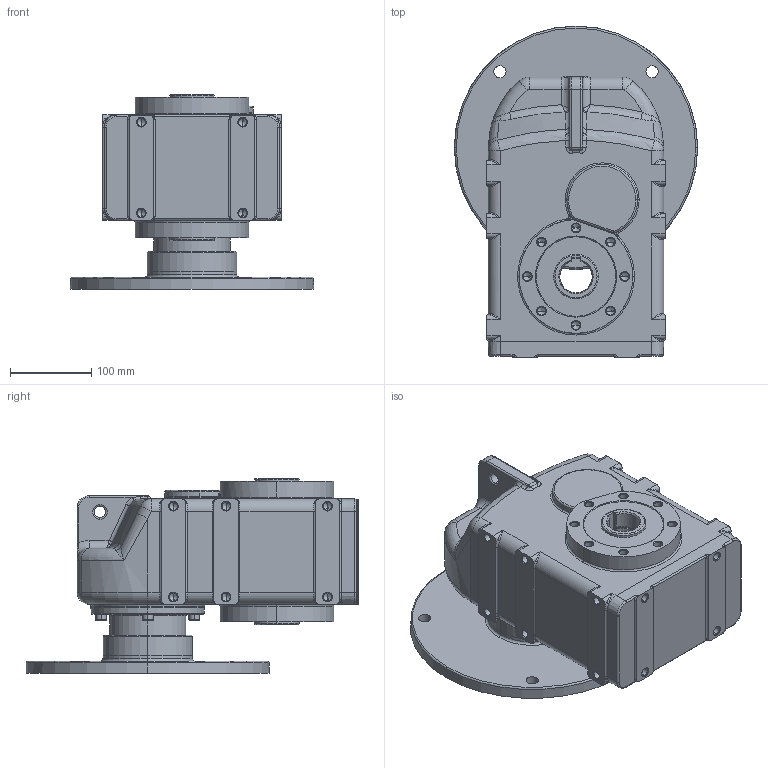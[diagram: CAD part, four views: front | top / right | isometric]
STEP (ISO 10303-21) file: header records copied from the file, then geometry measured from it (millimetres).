
FILE_DESCRIPTION (( 'STEP AP214' ), '1' );
FILE_NAME ('tnc32-f265-ap132.STEP', '2009-09-23T06:35:01', ( '' ), ( '' ), 'SwSTEP 2.0', 'SolidWorks 2003240', '' );
FILE_SCHEMA (( 'AUTOMOTIVE_DESIGN' ));
Length unit declared in the file: millimetre
Products named in the file (4): tnc32-f265-ap132; Pøíruba MRT120 kulatá _230-265-300; Skøíò TNC3_Skøíò TNC32 AP132; N021143_Šroub s vnitøním šestihranem DIN 912 - M8x1 x 25
Assembly tree (8 placements, depth 2):
  tnc32-f265-ap132
    N021143_Šroub s vnitøním šestihranem DIN 912 - M8x1 x 25  x6
    Pøíruba MRT120 kulatá _230-265-300
    Skøíò TNC3_Skøíò TNC32 AP132
Bounding box: 300 x 409 x 240 mm (x, y, z)
Volume: 10619428.3 mm3; surface area: 559365 mm2
Topology: 8 solids, 8 shells, 864 faces, 1958 edges, 1071 vertices
Faces by surface type: cylinder 279, cone 237, plane 166, torus 118, bspline 60, sphere 4
Entity records: 82635 total; most frequent: CARTESIAN_POINT 65465, DIRECTION 3649, ORIENTED_EDGE 3204, EDGE_CURVE 1602, AXIS2_PLACEMENT_3D 1500, VERTEX_POINT 941, EDGE_LOOP 827, CIRCLE 815
